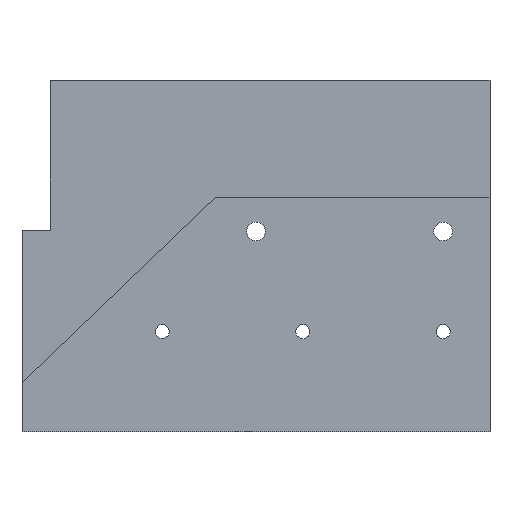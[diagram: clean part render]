
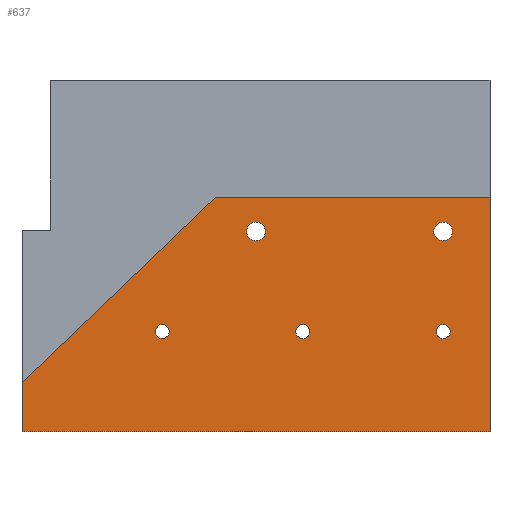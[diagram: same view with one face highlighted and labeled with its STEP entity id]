
A CAD part, left-side view. The second image highlights one B-rep face of the part: STEP entity #637.
In plain terms, the highlighted planar face has unit normal (-1, 0, 0).
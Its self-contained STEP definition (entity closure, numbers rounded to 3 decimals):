
#8 = CARTESIAN_POINT ( 'NONE',  ( -11., 70., -37.651 ) ) ;
#16 = DIRECTION ( 'NONE',  ( -1., 0., 0. ) ) ;
#26 = EDGE_LOOP ( 'NONE', ( #1092, #847 ) ) ;
#27 = VERTEX_POINT ( 'NONE', #81 ) ;
#44 = EDGE_CURVE ( 'NONE', #331, #867, #1249, .T. ) ;
#49 = CARTESIAN_POINT ( 'NONE',  ( -11., 100., 0. ) ) ;
#53 = VERTEX_POINT ( 'NONE', #1148 ) ;
#66 = CARTESIAN_POINT ( 'NONE',  ( -11., 0., -8.951 ) ) ;
#80 = VERTEX_POINT ( 'NONE', #1569 ) ;
#81 = CARTESIAN_POINT ( 'NONE',  ( -11., 10., -39.151 ) ) ;
#132 = EDGE_CURVE ( 'NONE', #715, #237, #718, .T. ) ;
#141 = EDGE_CURVE ( 'NONE', #1603, #1023, #1393, .T. ) ;
#145 = DIRECTION ( 'NONE',  ( 0., 0., 1. ) ) ;
#180 = CARTESIAN_POINT ( 'NONE',  ( -11., 58.685, -8.951 ) ) ;
#235 = VECTOR ( 'NONE', #845, 1000. ) ;
#237 = VERTEX_POINT ( 'NONE', #1520 ) ;
#242 = EDGE_CURVE ( 'NONE', #479, #1032, #591, .T. ) ;
#274 = CIRCLE ( 'NONE', #1544, 1.5 ) ;
#287 = CARTESIAN_POINT ( 'NONE',  ( -11., 0., -59. ) ) ;
#297 = DIRECTION ( 'NONE',  ( 1., 0., 0. ) ) ;
#317 = CIRCLE ( 'NONE', #953, 1.5 ) ;
#331 = VERTEX_POINT ( 'NONE', #66 ) ;
#349 = ORIENTED_EDGE ( 'NONE', *, *, #837, .T. ) ;
#373 = CARTESIAN_POINT ( 'NONE',  ( -11., 70., -37.651 ) ) ;
#383 = EDGE_LOOP ( 'NONE', ( #1483, #666 ) ) ;
#421 = FACE_BOUND ( 'NONE', #1502, .T. ) ;
#441 = DIRECTION ( 'NONE',  ( 1., 0., 0. ) ) ;
#470 = EDGE_CURVE ( 'NONE', #1485, #80, #274, .T. ) ;
#472 = ORIENTED_EDGE ( 'NONE', *, *, #1233, .T. ) ;
#479 = VERTEX_POINT ( 'NONE', #638 ) ;
#498 = AXIS2_PLACEMENT_3D ( 'NONE', #686, #1629, #818 ) ;
#500 = DIRECTION ( 'NONE',  ( 0., 0., 1. ) ) ;
#508 = DIRECTION ( 'NONE',  ( 1., 0., 0. ) ) ;
#534 = CARTESIAN_POINT ( 'NONE',  ( -11., 0., 0. ) ) ;
#539 = CARTESIAN_POINT ( 'NONE',  ( -11., 212., -59. ) ) ;
#542 = CIRCLE ( 'NONE', #960, 1.5 ) ;
#551 = VERTEX_POINT ( 'NONE', #654 ) ;
#554 = DIRECTION ( 'NONE',  ( 1., 0., 0. ) ) ;
#559 = CARTESIAN_POINT ( 'NONE',  ( -11., 10., -16.251 ) ) ;
#561 = DIRECTION ( 'NONE',  ( 1., 0., 0. ) ) ;
#591 = LINE ( 'NONE', #49, #235 ) ;
#594 = CARTESIAN_POINT ( 'NONE',  ( -11., 100., -48.5 ) ) ;
#617 = EDGE_CURVE ( 'NONE', #80, #1485, #542, .T. ) ;
#621 = CARTESIAN_POINT ( 'NONE',  ( -11., 0., -8.951 ) ) ;
#632 = ORIENTED_EDGE ( 'NONE', *, *, #931, .T. ) ;
#637 = ADVANCED_FACE ( 'NONE', ( #816, #1494, #1447, #1083, #732, #421 ), #807, .T. ) ;
#638 = CARTESIAN_POINT ( 'NONE',  ( -11., 100., -59. ) ) ;
#643 = ORIENTED_EDGE ( 'NONE', *, *, #470, .T. ) ;
#654 = CARTESIAN_POINT ( 'NONE',  ( -11., 50., -18.251 ) ) ;
#656 = AXIS2_PLACEMENT_3D ( 'NONE', #1317, #508, #1454 ) ;
#666 = ORIENTED_EDGE ( 'NONE', *, *, #141, .T. ) ;
#681 = DIRECTION ( 'NONE',  ( 0., -1., 0. ) ) ;
#686 = CARTESIAN_POINT ( 'NONE',  ( -11., 10., -37.651 ) ) ;
#694 = DIRECTION ( 'NONE',  ( 1., 0., 0. ) ) ;
#704 = DIRECTION ( 'NONE',  ( 0., 0., 1. ) ) ;
#712 = ORIENTED_EDGE ( 'NONE', *, *, #1170, .T. ) ;
#715 = VERTEX_POINT ( 'NONE', #1637 ) ;
#718 = CIRCLE ( 'NONE', #933, 2. ) ;
#722 = AXIS2_PLACEMENT_3D ( 'NONE', #559, #1505, #704 ) ;
#727 = CIRCLE ( 'NONE', #722, 2. ) ;
#732 = FACE_BOUND ( 'NONE', #776, .T. ) ;
#751 = DIRECTION ( 'NONE',  ( 0., 1., 0. ) ) ;
#773 = CIRCLE ( 'NONE', #1384, 2. ) ;
#776 = EDGE_LOOP ( 'NONE', ( #712, #1303 ) ) ;
#792 = CIRCLE ( 'NONE', #1196, 2. ) ;
#807 = PLANE ( 'NONE',  #1418 ) ;
#816 = FACE_OUTER_BOUND ( 'NONE', #1517, .T. ) ;
#818 = DIRECTION ( 'NONE',  ( 0., 0., 1. ) ) ;
#837 = EDGE_CURVE ( 'NONE', #479, #868, #878, .T. ) ;
#841 = ORIENTED_EDGE ( 'NONE', *, *, #44, .T. ) ;
#845 = DIRECTION ( 'NONE',  ( 0., 0., 1. ) ) ;
#847 = ORIENTED_EDGE ( 'NONE', *, *, #1392, .T. ) ;
#859 = CARTESIAN_POINT ( 'NONE',  ( -11., 40., -36.151 ) ) ;
#867 = VERTEX_POINT ( 'NONE', #1074 ) ;
#868 = VERTEX_POINT ( 'NONE', #287 ) ;
#878 = LINE ( 'NONE', #539, #1138 ) ;
#880 = EDGE_CURVE ( 'NONE', #53, #551, #792, .T. ) ;
#889 = VECTOR ( 'NONE', #1465, 1000. ) ;
#895 = EDGE_CURVE ( 'NONE', #551, #53, #773, .T. ) ;
#919 = CARTESIAN_POINT ( 'NONE',  ( -11., 70., -36.151 ) ) ;
#931 = EDGE_CURVE ( 'NONE', #867, #1032, #1038, .T. ) ;
#933 = AXIS2_PLACEMENT_3D ( 'NONE', #1362, #554, #1498 ) ;
#934 = DIRECTION ( 'NONE',  ( 1., 0., 0. ) ) ;
#944 = DIRECTION ( 'NONE',  ( 0., 0., 1. ) ) ;
#953 = AXIS2_PLACEMENT_3D ( 'NONE', #1245, #441, #1377 ) ;
#960 = AXIS2_PLACEMENT_3D ( 'NONE', #8, #934, #145 ) ;
#970 = DIRECTION ( 'NONE',  ( 0., 0.722, -0.691 ) ) ;
#1001 = VECTOR ( 'NONE', #970, 1000. ) ;
#1023 = VERTEX_POINT ( 'NONE', #859 ) ;
#1032 = VERTEX_POINT ( 'NONE', #594 ) ;
#1038 = LINE ( 'NONE', #180, #1001 ) ;
#1049 = CIRCLE ( 'NONE', #498, 1.5 ) ;
#1074 = CARTESIAN_POINT ( 'NONE',  ( -11., 58.685, -8.951 ) ) ;
#1082 = CARTESIAN_POINT ( 'NONE',  ( -11., 40., -39.151 ) ) ;
#1083 = FACE_BOUND ( 'NONE', #1585, .T. ) ;
#1087 = CARTESIAN_POINT ( 'NONE',  ( -11., 40., -37.651 ) ) ;
#1092 = ORIENTED_EDGE ( 'NONE', *, *, #132, .T. ) ;
#1138 = VECTOR ( 'NONE', #681, 1000. ) ;
#1148 = CARTESIAN_POINT ( 'NONE',  ( -11., 50., -14.251 ) ) ;
#1170 = EDGE_CURVE ( 'NONE', #1672, #27, #1344, .T. ) ;
#1191 = CARTESIAN_POINT ( 'NONE',  ( -11., 0., -59. ) ) ;
#1196 = AXIS2_PLACEMENT_3D ( 'NONE', #1501, #694, #1634 ) ;
#1231 = DIRECTION ( 'NONE',  ( 0., 0., 1. ) ) ;
#1233 = EDGE_CURVE ( 'NONE', #868, #331, #1260, .T. ) ;
#1235 = CARTESIAN_POINT ( 'NONE',  ( -11., 10., -36.151 ) ) ;
#1245 = CARTESIAN_POINT ( 'NONE',  ( -11., 40., -37.651 ) ) ;
#1249 = LINE ( 'NONE', #621, #1595 ) ;
#1260 = LINE ( 'NONE', #1191, #889 ) ;
#1303 = ORIENTED_EDGE ( 'NONE', *, *, #1592, .T. ) ;
#1310 = DIRECTION ( 'NONE',  ( 1., 0., 0. ) ) ;
#1317 = CARTESIAN_POINT ( 'NONE',  ( -11., 10., -37.651 ) ) ;
#1344 = CIRCLE ( 'NONE', #656, 1.5 ) ;
#1351 = ORIENTED_EDGE ( 'NONE', *, *, #895, .T. ) ;
#1362 = CARTESIAN_POINT ( 'NONE',  ( -11., 10., -16.251 ) ) ;
#1368 = CARTESIAN_POINT ( 'NONE',  ( -11., 50., -16.251 ) ) ;
#1371 = ORIENTED_EDGE ( 'NONE', *, *, #617, .T. ) ;
#1377 = DIRECTION ( 'NONE',  ( 0., 0., 1. ) ) ;
#1379 = ORIENTED_EDGE ( 'NONE', *, *, #880, .T. ) ;
#1384 = AXIS2_PLACEMENT_3D ( 'NONE', #1368, #561, #1507 ) ;
#1392 = EDGE_CURVE ( 'NONE', #237, #715, #727, .T. ) ;
#1393 = CIRCLE ( 'NONE', #1484, 1.5 ) ;
#1418 = AXIS2_PLACEMENT_3D ( 'NONE', #534, #16, #944 ) ;
#1447 = FACE_BOUND ( 'NONE', #26, .T. ) ;
#1454 = DIRECTION ( 'NONE',  ( 0., 0., 1. ) ) ;
#1465 = DIRECTION ( 'NONE',  ( 0., 0., 1. ) ) ;
#1483 = ORIENTED_EDGE ( 'NONE', *, *, #1684, .T. ) ;
#1484 = AXIS2_PLACEMENT_3D ( 'NONE', #1087, #297, #1231 ) ;
#1485 = VERTEX_POINT ( 'NONE', #919 ) ;
#1494 = FACE_BOUND ( 'NONE', #383, .T. ) ;
#1498 = DIRECTION ( 'NONE',  ( 0., 0., 1. ) ) ;
#1501 = CARTESIAN_POINT ( 'NONE',  ( -11., 50., -16.251 ) ) ;
#1502 = EDGE_LOOP ( 'NONE', ( #643, #1371 ) ) ;
#1505 = DIRECTION ( 'NONE',  ( 1., 0., 0. ) ) ;
#1507 = DIRECTION ( 'NONE',  ( 0., 0., 1. ) ) ;
#1517 = EDGE_LOOP ( 'NONE', ( #1717, #349, #472, #841, #632 ) ) ;
#1520 = CARTESIAN_POINT ( 'NONE',  ( -11., 10., -18.251 ) ) ;
#1544 = AXIS2_PLACEMENT_3D ( 'NONE', #373, #1310, #500 ) ;
#1569 = CARTESIAN_POINT ( 'NONE',  ( -11., 70., -39.151 ) ) ;
#1585 = EDGE_LOOP ( 'NONE', ( #1379, #1351 ) ) ;
#1592 = EDGE_CURVE ( 'NONE', #27, #1672, #1049, .T. ) ;
#1595 = VECTOR ( 'NONE', #751, 1000. ) ;
#1603 = VERTEX_POINT ( 'NONE', #1082 ) ;
#1629 = DIRECTION ( 'NONE',  ( 1., 0., 0. ) ) ;
#1634 = DIRECTION ( 'NONE',  ( 0., 0., 1. ) ) ;
#1637 = CARTESIAN_POINT ( 'NONE',  ( -11., 10., -14.251 ) ) ;
#1672 = VERTEX_POINT ( 'NONE', #1235 ) ;
#1684 = EDGE_CURVE ( 'NONE', #1023, #1603, #317, .T. ) ;
#1717 = ORIENTED_EDGE ( 'NONE', *, *, #242, .F. ) ;
